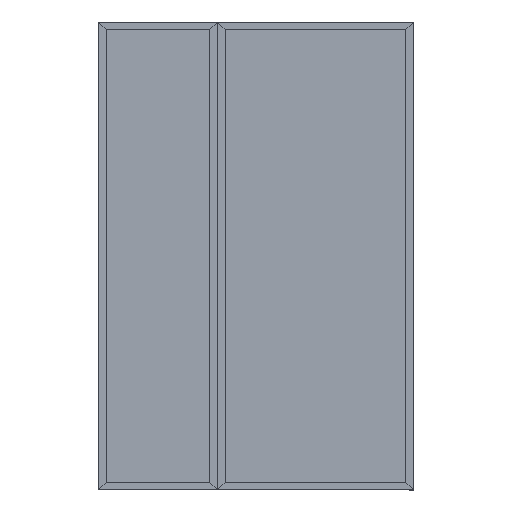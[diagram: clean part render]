
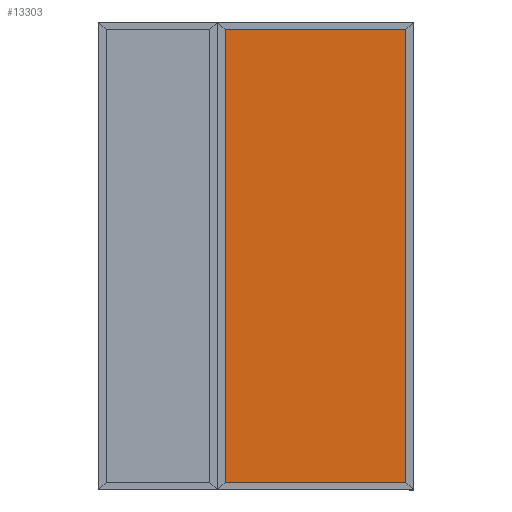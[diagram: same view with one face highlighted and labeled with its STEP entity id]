
A CAD part, top view. The second image highlights one B-rep face of the part: STEP entity #13303.
In plain terms, the highlighted planar face has unit normal (0, 0, 1).
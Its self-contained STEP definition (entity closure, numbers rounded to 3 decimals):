
#3049 = ORIENTED_EDGE ( 'NONE', *, *, #31460, .T. ) ;
#4845 = CARTESIAN_POINT ( 'NONE',  ( 465.07, 0., -13.25 ) ) ;
#5475 = CARTESIAN_POINT ( 'NONE',  ( -465.07, 0., -13.25 ) ) ;
#5711 = LINE ( 'NONE', #5475, #15052 ) ;
#5995 = LINE ( 'NONE', #26706, #14593 ) ;
#7914 = DIRECTION ( 'NONE',  ( 0., 1., 0. ) ) ;
#8739 = DIRECTION ( 'NONE',  ( 0., 0., -1. ) ) ;
#8905 = EDGE_CURVE ( 'NONE', #20351, #31186, #30708, .T. ) ;
#9260 = VERTEX_POINT ( 'NONE', #35545 ) ;
#12249 = CARTESIAN_POINT ( 'NONE',  ( 0., 0., -13.25 ) ) ;
#13303 = ADVANCED_FACE ( 'NONE', ( #42183 ), #31889, .F. ) ;
#14403 = EDGE_CURVE ( 'NONE', #31186, #9260, #5711, .T. ) ;
#14593 = VECTOR ( 'NONE', #27348, 1000. ) ;
#15052 = VECTOR ( 'NONE', #18778, 1000. ) ;
#15426 = CARTESIAN_POINT ( 'NONE',  ( -465.07, -1162.2, -13.25 ) ) ;
#18778 = DIRECTION ( 'NONE',  ( 0., 1., 0. ) ) ;
#20351 = VERTEX_POINT ( 'NONE', #22962 ) ;
#22962 = CARTESIAN_POINT ( 'NONE',  ( 465.07, -1162.2, -13.25 ) ) ;
#23080 = EDGE_CURVE ( 'NONE', #28829, #9260, #5995, .T. ) ;
#24971 = AXIS2_PLACEMENT_3D ( 'NONE', #12249, #8739, #35383 ) ;
#26218 = ORIENTED_EDGE ( 'NONE', *, *, #8905, .F. ) ;
#26706 = CARTESIAN_POINT ( 'NONE',  ( 0., 1162.2, -13.25 ) ) ;
#27348 = DIRECTION ( 'NONE',  ( -1., 0., 0. ) ) ;
#28829 = VERTEX_POINT ( 'NONE', #40254 ) ;
#30708 = LINE ( 'NONE', #36807, #31107 ) ;
#30763 = VECTOR ( 'NONE', #7914, 1000. ) ;
#30997 = EDGE_LOOP ( 'NONE', ( #35251, #26218, #3049, #40350 ) ) ;
#31107 = VECTOR ( 'NONE', #39904, 1000. ) ;
#31186 = VERTEX_POINT ( 'NONE', #15426 ) ;
#31460 = EDGE_CURVE ( 'NONE', #20351, #28829, #37845, .T. ) ;
#31889 = PLANE ( 'NONE',  #24971 ) ;
#35251 = ORIENTED_EDGE ( 'NONE', *, *, #14403, .F. ) ;
#35383 = DIRECTION ( 'NONE',  ( -1., 0., 0. ) ) ;
#35545 = CARTESIAN_POINT ( 'NONE',  ( -465.07, 1162.2, -13.25 ) ) ;
#36807 = CARTESIAN_POINT ( 'NONE',  ( 0., -1162.2, -13.25 ) ) ;
#37845 = LINE ( 'NONE', #4845, #30763 ) ;
#39904 = DIRECTION ( 'NONE',  ( -1., 0., 0. ) ) ;
#40254 = CARTESIAN_POINT ( 'NONE',  ( 465.07, 1162.2, -13.25 ) ) ;
#40350 = ORIENTED_EDGE ( 'NONE', *, *, #23080, .T. ) ;
#42183 = FACE_OUTER_BOUND ( 'NONE', #30997, .T. ) ;
